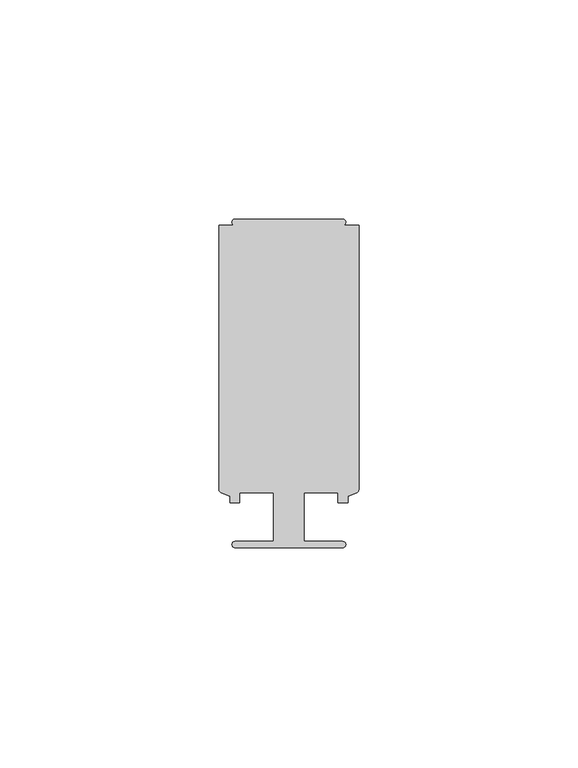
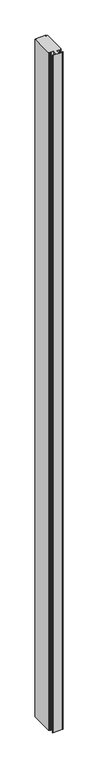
"""IFC4 building model written with IfcOpenShell, lengths in millimetres: member geometry, Прямоугольный импост : 2-AMG-1-Профиль 26Х75 Средний."""

from ifc_helpers import new_model, si_unit, point, frame, frame_2d, origin, place, context, project, spatial, polyline, circle_curve, trimmed, segment, composite_curve, outline, extrude, source, transform, mapped, element, save


def member_4c076a20(model_context):
    return source(origin(), model_context, "Body", "SweptSolid", [
        extrude(outline(composite_curve([segment(polyline([(12.2976562, -37.5), (-12.3023438, -37.5)]), True, "CONTINUOUS"), segment(trimmed(circle_curve(frame_2d((-12.3023438, -36.8)), 0.7), [point((-12.3023438, -37.5))], [point((-12.3023438, -36.1))], False, "CARTESIAN"), True, "CONTINUOUS"), segment(polyline([(-12.3023438, -36.1), (-3.5023438, -36.1), (-3.5023438, -25.0), (-11.2993767, -25.0), (-11.2993767, -27.25), (-13.4493278, -27.25), (-13.4493278, -25.836597), (-15.5219415, -24.9333875)]), True, "CONTINUOUS"), segment(trimmed(circle_curve(frame_2d((-15.2023438, -24.2)), 0.8), [point((-15.5219415, -24.9333875))], [point((-16.0023438, -24.2))], False, "CARTESIAN"), True, "CONTINUOUS"), segment(polyline([(-16.0023438, -24.2), (-16.0023438, 36.1), (-12.3004766, 36.1)]), True, "CONTINUOUS"), segment(trimmed(circle_curve(frame_2d((-12.3004766, 36.8)), 0.7), [point((-12.3004766, 36.1))], [point((-12.3004766, 37.5))], False, "CARTESIAN"), True, "CONTINUOUS"), segment(polyline([(-12.3004766, 37.5), (12.295789, 37.5)]), True, "CONTINUOUS"), segment(trimmed(circle_curve(frame_2d((12.295789, 36.8)), 0.7), [point((12.295789, 37.5))], [point((12.295789, 36.1))], False, "CARTESIAN"), True, "CONTINUOUS"), segment(polyline([(12.295789, 36.1), (15.9976562, 36.1), (15.9976562, -24.2)]), True, "CONTINUOUS"), segment(trimmed(circle_curve(frame_2d((15.1976562, -24.2)), 0.8), [point((15.9976562, -24.2))], [point((15.5172539, -24.9333875))], False, "CARTESIAN"), True, "CONTINUOUS"), segment(polyline([(15.5172539, -24.9333875), (13.4446403, -25.836597), (13.4446403, -27.25), (11.2193767, -27.25), (11.2193767, -25.0), (3.4976562, -25.0), (3.4976562, -36.1), (12.2976562, -36.1)]), True, "CONTINUOUS"), segment(trimmed(circle_curve(frame_2d((12.2976562, -36.8)), 0.7), [point((12.2976562, -36.1))], [point((12.2976562, -37.5))], False, "CARTESIAN"), True, "CONTINUOUS")], self_intersect=False)), frame((0.0, 0.0, -1833.8849139), z_axis=(0.0, 0.0, 1.0), x_axis=(1.0, 0.0, 0.0)), (0.0, 0.0, 1.0), 1833.8849139),
    ])


if __name__ == "__main__":
    model = new_model("IFC4")
    model_context = context("Model", 3, world=origin())
    ifc_project = project(units=[si_unit("LENGTHUNIT", "METRE", prefix="MILLI")], contexts=[model_context])
    site = spatial("IfcSite", under=ifc_project)
    building = spatial("IfcBuilding", under=site)
    placement = place(None, origin())
    member_shape = member_4c076a20(model_context)
    element("IfcMember", 1, ObjectType="Прямоугольный импост : 2-AMG-1-Профиль 26Х75 Средний", at=placement, inside=building, context=model_context, shape_type="MappedRepresentation", body=[
        mapped(member_shape, transform((0.0, 0.0, 0.0), x_axis=(1.0, 0.0, 0.0), y_axis=(0.0, 1.0, 0.0), z_axis=(0.0, 0.0, 1.0))),
    ])
    save(model, "model.ifc")
